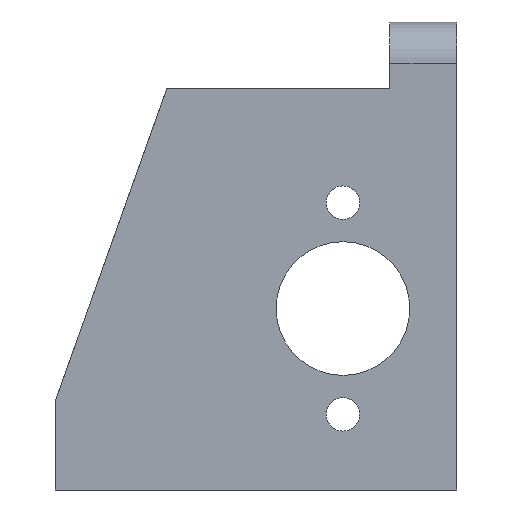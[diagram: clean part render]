
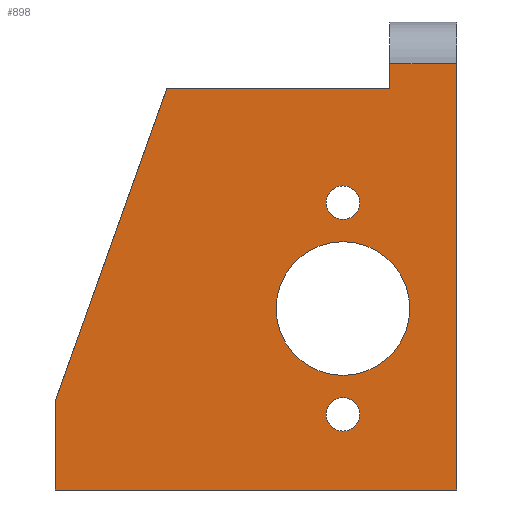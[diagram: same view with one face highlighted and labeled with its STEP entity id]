
A CAD part, left-side view. The second image highlights one B-rep face of the part: STEP entity #898.
In plain terms, the highlighted planar face has unit normal (-1, 0, 0).
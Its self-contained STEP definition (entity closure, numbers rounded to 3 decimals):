
#9 = EDGE_CURVE ( 'NONE', #1527, #1075, #166, .T. ) ;
#12 = AXIS2_PLACEMENT_3D ( 'NONE', #1342, #561, #583 ) ;
#13 = CARTESIAN_POINT ( 'NONE',  ( 164.506, 17.5, 36. ) ) ;
#30 = CARTESIAN_POINT ( 'NONE',  ( 164.506, 53.5, 0. ) ) ;
#63 = ORIENTED_EDGE ( 'NONE', *, *, #970, .T. ) ;
#81 = CARTESIAN_POINT ( 'NONE',  ( 164.506, 23.5, 38.25 ) ) ;
#82 = CIRCLE ( 'NONE', #729, 1.5 ) ;
#83 = VECTOR ( 'NONE', #1072, 1000. ) ;
#86 = DIRECTION ( 'NONE',  ( 0., 0., -1. ) ) ;
#109 = DIRECTION ( 'NONE',  ( 1., 0., 0. ) ) ;
#115 = DIRECTION ( 'NONE',  ( 0., -1., 0. ) ) ;
#116 = FACE_BOUND ( 'NONE', #691, .T. ) ;
#135 = VECTOR ( 'NONE', #919, 1000. ) ;
#139 = DIRECTION ( 'NONE',  ( 0., 1., 0. ) ) ;
#143 = DIRECTION ( 'NONE',  ( 1., 0., 0. ) ) ;
#151 = ORIENTED_EDGE ( 'NONE', *, *, #284, .T. ) ;
#159 = DIRECTION ( 'NONE',  ( 0., 0., -1. ) ) ;
#162 = FACE_OUTER_BOUND ( 'NONE', #1344, .T. ) ;
#166 = LINE ( 'NONE', #693, #83 ) ;
#220 = EDGE_CURVE ( 'NONE', #1235, #1153, #1067, .T. ) ;
#236 = LINE ( 'NONE', #661, #1224 ) ;
#274 = DIRECTION ( 'NONE',  ( 1., 0., 0. ) ) ;
#284 = EDGE_CURVE ( 'NONE', #798, #1308, #1622, .T. ) ;
#290 = VECTOR ( 'NONE', #1336, 1000. ) ;
#292 = DIRECTION ( 'NONE',  ( 1., 0., 0. ) ) ;
#307 = EDGE_LOOP ( 'NONE', ( #63, #1644 ) ) ;
#330 = VERTEX_POINT ( 'NONE', #1287 ) ;
#334 = DIRECTION ( 'NONE',  ( 0., 0.336, -0.942 ) ) ;
#343 = CIRCLE ( 'NONE', #12, 1.5 ) ;
#348 = VERTEX_POINT ( 'NONE', #657 ) ;
#361 = VERTEX_POINT ( 'NONE', #30 ) ;
#362 = EDGE_CURVE ( 'NONE', #1646, #558, #82, .T. ) ;
#389 = AXIS2_PLACEMENT_3D ( 'NONE', #1638, #109, #1396 ) ;
#390 = CIRCLE ( 'NONE', #1021, 6. ) ;
#403 = AXIS2_PLACEMENT_3D ( 'NONE', #935, #292, #1555 ) ;
#433 = CARTESIAN_POINT ( 'NONE',  ( 164.506, 17.5, 0. ) ) ;
#447 = CARTESIAN_POINT ( 'NONE',  ( 164.506, 27.696, 16.285 ) ) ;
#488 = EDGE_CURVE ( 'NONE', #558, #1646, #525, .T. ) ;
#494 = VERTEX_POINT ( 'NONE', #1497 ) ;
#503 = CARTESIAN_POINT ( 'NONE',  ( 164.506, 17.5, 38.25 ) ) ;
#504 = EDGE_CURVE ( 'NONE', #736, #1075, #1359, .T. ) ;
#518 = DIRECTION ( 'NONE',  ( 1., 0., 0. ) ) ;
#525 = CIRCLE ( 'NONE', #1593, 1.5 ) ;
#534 = DIRECTION ( 'NONE',  ( 0., 0., -1. ) ) ;
#558 = VERTEX_POINT ( 'NONE', #1219 ) ;
#561 = DIRECTION ( 'NONE',  ( 1., 0., 0. ) ) ;
#583 = DIRECTION ( 'NONE',  ( 0., 0., -1. ) ) ;
#595 = ORIENTED_EDGE ( 'NONE', *, *, #488, .T. ) ;
#598 = ORIENTED_EDGE ( 'NONE', *, *, #362, .T. ) ;
#599 = ORIENTED_EDGE ( 'NONE', *, *, #220, .F. ) ;
#600 = EDGE_CURVE ( 'NONE', #1308, #798, #390, .T. ) ;
#606 = ORIENTED_EDGE ( 'NONE', *, *, #1590, .T. ) ;
#638 = CARTESIAN_POINT ( 'NONE',  ( 164.506, 17.5, 36. ) ) ;
#657 = CARTESIAN_POINT ( 'NONE',  ( 164.506, 27.696, 5.285 ) ) ;
#661 = CARTESIAN_POINT ( 'NONE',  ( 164.506, 23.5, 38.25 ) ) ;
#667 = CARTESIAN_POINT ( 'NONE',  ( 164.506, 27.696, 25.785 ) ) ;
#673 = CARTESIAN_POINT ( 'NONE',  ( 164.506, 53.5, 36. ) ) ;
#691 = EDGE_LOOP ( 'NONE', ( #151, #927 ) ) ;
#693 = CARTESIAN_POINT ( 'NONE',  ( 164.506, 23.5, 36. ) ) ;
#699 = ORIENTED_EDGE ( 'NONE', *, *, #955, .T. ) ;
#729 = AXIS2_PLACEMENT_3D ( 'NONE', #917, #518, #534 ) ;
#736 = VERTEX_POINT ( 'NONE', #885 ) ;
#742 = AXIS2_PLACEMENT_3D ( 'NONE', #13, #143, #1038 ) ;
#746 = CIRCLE ( 'NONE', #403, 1.5 ) ;
#764 = VECTOR ( 'NONE', #115, 1000. ) ;
#798 = VERTEX_POINT ( 'NONE', #1273 ) ;
#803 = LINE ( 'NONE', #433, #290 ) ;
#816 = CARTESIAN_POINT ( 'NONE',  ( 164.506, 17.5, 0. ) ) ;
#838 = EDGE_LOOP ( 'NONE', ( #595, #598 ) ) ;
#856 = CARTESIAN_POINT ( 'NONE',  ( 164.506, 23.5, 36. ) ) ;
#885 = CARTESIAN_POINT ( 'NONE',  ( 164.506, 43.5, 36. ) ) ;
#898 = ADVANCED_FACE ( 'NONE', ( #162, #1291, #958, #116 ), #1422, .F. ) ;
#917 = CARTESIAN_POINT ( 'NONE',  ( 164.506, 27.696, 25.785 ) ) ;
#919 = DIRECTION ( 'NONE',  ( 0., 0., -1. ) ) ;
#927 = ORIENTED_EDGE ( 'NONE', *, *, #600, .T. ) ;
#935 = CARTESIAN_POINT ( 'NONE',  ( 164.506, 27.696, 6.785 ) ) ;
#955 = EDGE_CURVE ( 'NONE', #361, #1153, #803, .T. ) ;
#958 = FACE_BOUND ( 'NONE', #307, .T. ) ;
#970 = EDGE_CURVE ( 'NONE', #348, #330, #343, .T. ) ;
#985 = VECTOR ( 'NONE', #334, 1000. ) ;
#994 = CARTESIAN_POINT ( 'NONE',  ( 164.506, 17.5, 36. ) ) ;
#996 = CARTESIAN_POINT ( 'NONE',  ( 164.506, 27.696, 27.285 ) ) ;
#1001 = LINE ( 'NONE', #673, #135 ) ;
#1021 = AXIS2_PLACEMENT_3D ( 'NONE', #447, #1613, #1364 ) ;
#1038 = DIRECTION ( 'NONE',  ( 0., 0., -1. ) ) ;
#1067 = LINE ( 'NONE', #994, #1127 ) ;
#1068 = ORIENTED_EDGE ( 'NONE', *, *, #1304, .T. ) ;
#1072 = DIRECTION ( 'NONE',  ( 0., 0., -1. ) ) ;
#1075 = VERTEX_POINT ( 'NONE', #856 ) ;
#1127 = VECTOR ( 'NONE', #86, 1000. ) ;
#1151 = EDGE_CURVE ( 'NONE', #330, #348, #746, .T. ) ;
#1153 = VERTEX_POINT ( 'NONE', #816 ) ;
#1171 = ORIENTED_EDGE ( 'NONE', *, *, #9, .T. ) ;
#1219 = CARTESIAN_POINT ( 'NONE',  ( 164.506, 27.696, 24.285 ) ) ;
#1224 = VECTOR ( 'NONE', #139, 1000. ) ;
#1235 = VERTEX_POINT ( 'NONE', #503 ) ;
#1256 = ORIENTED_EDGE ( 'NONE', *, *, #1360, .T. ) ;
#1273 = CARTESIAN_POINT ( 'NONE',  ( 164.506, 27.696, 10.285 ) ) ;
#1287 = CARTESIAN_POINT ( 'NONE',  ( 164.506, 27.696, 8.285 ) ) ;
#1291 = FACE_BOUND ( 'NONE', #838, .T. ) ;
#1304 = EDGE_CURVE ( 'NONE', #1235, #1527, #236, .T. ) ;
#1308 = VERTEX_POINT ( 'NONE', #1418 ) ;
#1336 = DIRECTION ( 'NONE',  ( 0., -1., 0. ) ) ;
#1342 = CARTESIAN_POINT ( 'NONE',  ( 164.506, 27.696, 6.785 ) ) ;
#1344 = EDGE_LOOP ( 'NONE', ( #599, #1068, #1171, #1632, #606, #1256, #699 ) ) ;
#1354 = CARTESIAN_POINT ( 'NONE',  ( 164.506, 40.559, 44.235 ) ) ;
#1359 = LINE ( 'NONE', #638, #764 ) ;
#1360 = EDGE_CURVE ( 'NONE', #494, #361, #1001, .T. ) ;
#1364 = DIRECTION ( 'NONE',  ( 0., 0., -1. ) ) ;
#1393 = LINE ( 'NONE', #1354, #985 ) ;
#1396 = DIRECTION ( 'NONE',  ( 0., 0., -1. ) ) ;
#1418 = CARTESIAN_POINT ( 'NONE',  ( 164.506, 27.696, 22.285 ) ) ;
#1422 = PLANE ( 'NONE',  #742 ) ;
#1497 = CARTESIAN_POINT ( 'NONE',  ( 164.506, 53.5, 8. ) ) ;
#1527 = VERTEX_POINT ( 'NONE', #81 ) ;
#1555 = DIRECTION ( 'NONE',  ( 0., 0., -1. ) ) ;
#1590 = EDGE_CURVE ( 'NONE', #736, #494, #1393, .T. ) ;
#1593 = AXIS2_PLACEMENT_3D ( 'NONE', #667, #274, #159 ) ;
#1613 = DIRECTION ( 'NONE',  ( 1., 0., 0. ) ) ;
#1622 = CIRCLE ( 'NONE', #389, 6. ) ;
#1632 = ORIENTED_EDGE ( 'NONE', *, *, #504, .F. ) ;
#1638 = CARTESIAN_POINT ( 'NONE',  ( 164.506, 27.696, 16.285 ) ) ;
#1644 = ORIENTED_EDGE ( 'NONE', *, *, #1151, .T. ) ;
#1646 = VERTEX_POINT ( 'NONE', #996 ) ;
